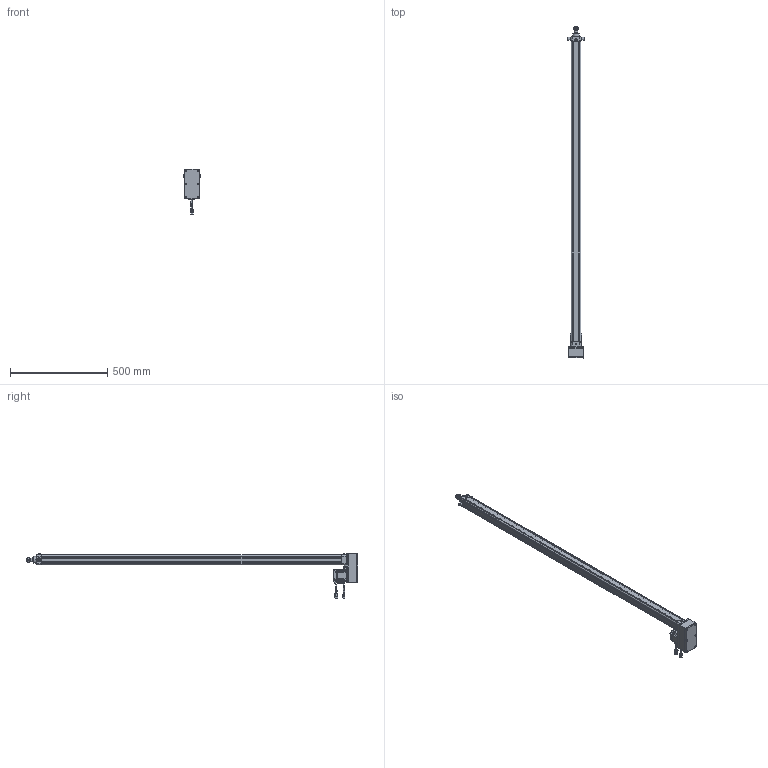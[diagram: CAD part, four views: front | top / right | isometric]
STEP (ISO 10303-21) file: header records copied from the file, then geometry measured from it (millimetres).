
FILE_DESCRIPTION((''),'2;1');
FILE_NAME('HE40-D-100_ASM','2020-05-26T',('ASUS20200'),(''),'CREO PARAMETRIC BY PTC INC, 2014190','CREO PARAMETRIC BY PTC INC, 2014190','');
FILE_SCHEMA(('CONFIG_CONTROL_DESIGN'));
Length unit declared in the file: millimetre
Products named in the file (33): HE40-D-P-001-X1; HE40-D-P-002-X1; HE40-D-P-003-X1; 6200ZZ; SLM-01; YZ-M6X1; JDB202820; HE40-P-010-X1-200W; _MHMF022L1A2; _CABLE_MOTOR_BOTTOM_03; _CABLE_MOTOR_TOP_03; _MOTOR_CONNECTOR_2; _CABLE_BRAKE_BOTTOM_03; _CABLE_BRAKE_TOP_03; _MHMF_CONNECTOR_9_PIN_A6; MHMF022L1A2M2_1_ASM; MHMF022L1A2M2_ASM; JX5X5X20; TD-5; M5X20; LM-M6X1; M6X25; LM-M6-15; M6; HE40-P-012-X2; HE40-P-014-X1; M4X65; HE40-TC; HE40-D-P-005-X1; HE40-D-P-004-X1; HE40-D-P-008-X1; LGLM-M6-22; HE40-D-100_ASM
Assembly tree (50 placements, depth 4):
  HE40-D-100_ASM
    HE40-D-P-001-X1
    HE40-D-P-002-X1
    HE40-D-P-003-X1
    6200ZZ
    SLM-01
    YZ-M6X1
    JDB202820
    HE40-P-010-X1-200W
    MHMF022L1A2M2_ASM
      MHMF022L1A2M2_1_ASM
        _MHMF022L1A2
        _CABLE_MOTOR_BOTTOM_03
        _CABLE_MOTOR_TOP_03
        _MOTOR_CONNECTOR_2
        _CABLE_BRAKE_BOTTOM_03
        _CABLE_BRAKE_TOP_03
        _MHMF_CONNECTOR_9_PIN_A6
    JX5X5X20
    TD-5  x4
    M5X20  x4
    LM-M6X1  x4
    M6X25
    LM-M6-15
    M6
    HE40-P-012-X2
    HE40-P-014-X1
    M4X65  x6
    HE40-TC  x2
    HE40-D-P-005-X1
    HE40-D-P-004-X1
    HE40-D-P-008-X1
    LGLM-M6-22  x4
Bounding box: 91 x 1707.5 x 232.7 mm (x, y, z)
Volume: 2267806.8 mm3; surface area: 942116.6 mm2
Topology: 48 solids, 77 shells, 2627 faces, 6286 edges, 3899 vertices
Faces by surface type: plane 1108, cylinder 735, cone 604, torus 142, sphere 34, bspline 4
Entity records: 67388 total; most frequent: CARTESIAN_POINT 13130, DIRECTION 11901, ORIENTED_EDGE 10604, EDGE_CURVE 5360, AXIS2_PLACEMENT_3D 4465, VERTEX_POINT 3365, VECTOR 2971, LINE 2971
